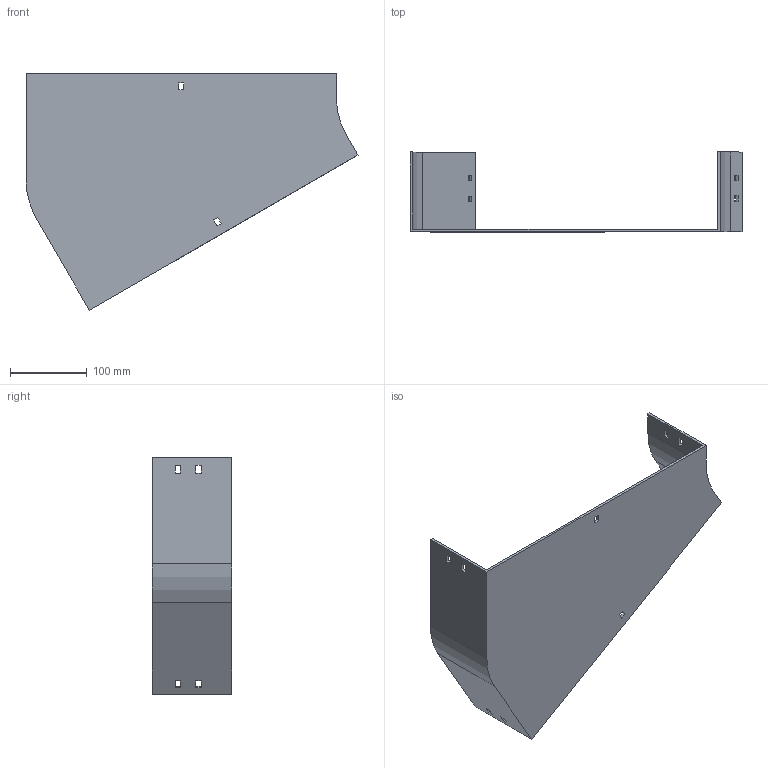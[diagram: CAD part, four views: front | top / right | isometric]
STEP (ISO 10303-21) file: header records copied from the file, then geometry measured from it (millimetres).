
FILE_DESCRIPTION (( 'STEP AP214' ), '1' );
FILE_NAME ('12F1D400.step', '2025-02-21T12:53:41', ( '' ), ( '' ), 'SwSTEP 2.0', 'SolidWorks 2023', '' );
FILE_SCHEMA (( 'AUTOMOTIVE_DESIGN' ));
Length unit declared in the file: millimetre
Products named in the file (1): 12F1D400
Bounding box: 432.4 x 104 x 307.98 mm (x, y, z)
Volume: 466514.2 mm3; surface area: 273527.8 mm2
Topology: 1 solids, 1 shells, 58 faces, 168 edges, 112 vertices
Faces by surface type: plane 54, cylinder 4
Entity records: 1943 total; most frequent: CARTESIAN_POINT 339, ORIENTED_EDGE 336, DIRECTION 294, EDGE_CURVE 168, LINE 160, VECTOR 160, VERTEX_POINT 112, EDGE_LOOP 78
